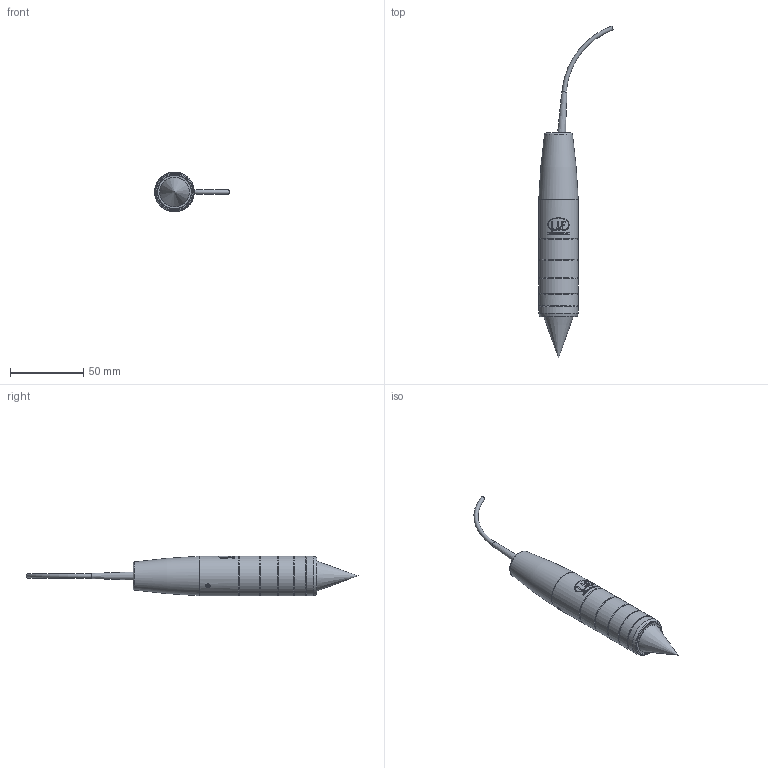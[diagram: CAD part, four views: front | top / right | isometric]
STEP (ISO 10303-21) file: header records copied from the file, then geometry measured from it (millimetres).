
FILE_DESCRIPTION (( 'STEP AP214' ), '1' );
FILE_NAME ('IFS2404-3.STEP', '2026-02-10T10:24:02', ( '' ), ( '' ), 'SwSTEP 2.0', 'SolidWorks 2022', '' );
FILE_SCHEMA (( 'AUTOMOTIVE_DESIGN' ));
Length unit declared in the file: millimetre
Products named in the file (1): IFS2404-3
Bounding box: 50.87 x 226.21 x 27 mm (x, y, z)
Volume: 65330.7 mm3; surface area: 14434.5 mm2
Topology: 2 solids, 4 shells, 79 faces, 389 edges, 344 vertices
Faces by surface type: cylinder 31, plane 27, cone 12, torus 9
Full cylindrical faces by diameter (mm): 0.05 x1, 2.5 x2, 14 x1, 23 x1, 25.714 x1, 26.9 x1, 27 x5
Entity records: 6121 total; most frequent: CARTESIAN_POINT 2739, ORIENTED_EDGE 672, DIRECTION 401, EDGE_CURVE 336, VERTEX_POINT 324, B_SPLINE_CURVE_WITH_KNOTS 175, AXIS2_PLACEMENT_3D 162, EDGE_LOOP 140
